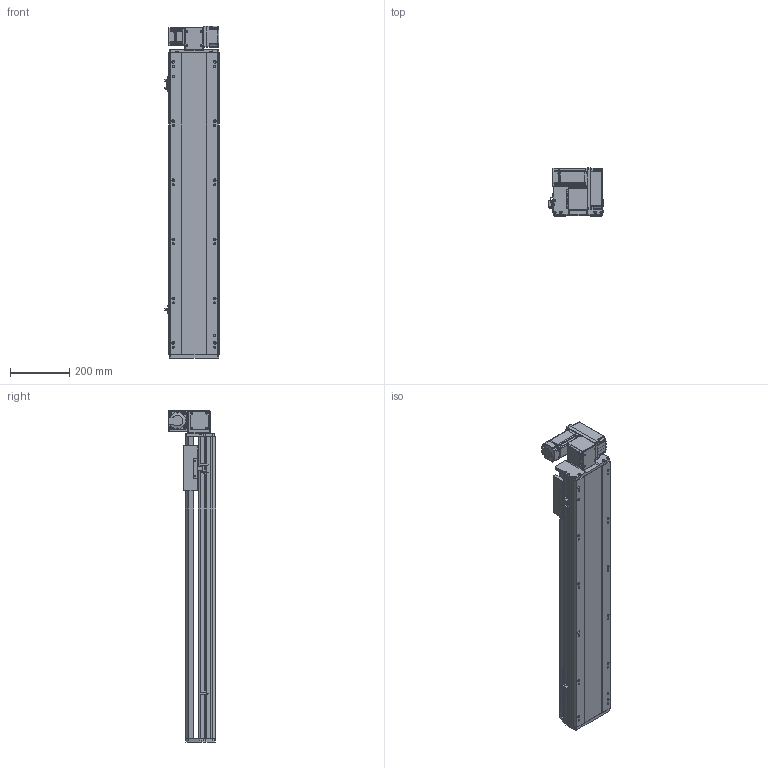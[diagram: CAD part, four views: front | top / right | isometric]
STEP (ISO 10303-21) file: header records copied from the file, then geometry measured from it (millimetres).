
FILE_DESCRIPTION (( 'STEP AP214' ), '1' );
FILE_NAME ('RTB17S-XX-750-RW-M40-C4.STEP', '2025-12-11T08:52:11', ( '' ), ( '' ), 'SwSTEP 2.0', 'SolidWorks 2018', '' );
FILE_SCHEMA (( 'AUTOMOTIVE_DESIGN' ));
Length unit declared in the file: millimetre
Products named in the file (14): RTB17S-RW-々湍釱蚾饜-400W^RTB17S-XX-XX-RW-M40-C4; RTB17S-L-001耜醱啣^RTB17S-XX-XX-RW-M40-C4; RMP17S-L-014-T20--々湍釱^RTB17S-RW-々湍釱蚾饜-400W_RTB17S-XX-XX-RW-M40-C4; RTB14-L-005P--轴承塑胶压盖^RTB17S-RW-皮带座装配-400W_RTB17S-XX-XX-RW-M40-C4; RTB14-L-017P^RTB17S-RW-々湍釱蚾饜-400W_RTB17S-XX-XX-RW-M40-C4; 400W侜督萇儂^RTB17S-XX-XX-RW-M40-C4; RTB17S-L-007奻裔^RTB17S-XX-XX-RW-M40-C4; RTH13-BL-012覜茼え俋离^RTB17S-XX-XX-RW-M40-C4; RTB17-R-011菁釱^RTB17S-XX-XX-RW-M40-C4; RTB14-L-018P^RTB17S-RW-々湍釱蚾饜-400W_RTB17S-XX-XX-RW-M40-C4; RTB17S-L-004佪裝蹟譫蟀諉釱^RTB17S-XX-XX-RW-M40-C4; OMRON EE-SX672 传感器^RTB17S-XX-XX-RW-M40-C4; RTB14-L-008-M20--萇儂啣^RTB17S-RW-々湍釱蚾饜-400W_RTB17S-XX-XX-RW-M40-C4; RTB17S-XX-750-RW-M40-C4
Assembly tree (16 placements, depth 3):
  RTB17S-XX-750-RW-M40-C4
    RTB17-R-011菁釱^RTB17S-XX-XX-RW-M40-C4
    RTB17S-L-007奻裔^RTB17S-XX-XX-RW-M40-C4
    OMRON EE-SX672 传感器^RTB17S-XX-XX-RW-M40-C4  x3
    RTB17S-L-001耜醱啣^RTB17S-XX-XX-RW-M40-C4
    400W侜督萇儂^RTB17S-XX-XX-RW-M40-C4
    RTB17S-L-004佪裝蹟譫蟀諉釱^RTB17S-XX-XX-RW-M40-C4
    RTH13-BL-012覜茼え俋离^RTB17S-XX-XX-RW-M40-C4
    RTB17S-RW-々湍釱蚾饜-400W^RTB17S-XX-XX-RW-M40-C4
      RMP17S-L-014-T20--々湍釱^RTB17S-RW-々湍釱蚾饜-400W_RTB17S-XX-XX-RW-M40-C4
      RTB14-L-005P--轴承塑胶压盖^RTB17S-RW-皮带座装配-400W_RTB17S-XX-XX-RW-M40-C4
      RTB14-L-008-M20--萇儂啣^RTB17S-RW-々湍釱蚾饜-400W_RTB17S-XX-XX-RW-M40-C4
      RTB14-L-017P^RTB17S-RW-々湍釱蚾饜-400W_RTB17S-XX-XX-RW-M40-C4  x2
      RTB14-L-018P^RTB17S-RW-々湍釱蚾饜-400W_RTB17S-XX-XX-RW-M40-C4
Bounding box: 183.5 x 160.5 x 1122.5 mm (x, y, z)
Volume: 10335640.5 mm3; surface area: 1275742 mm2
Topology: 15 solids, 15 shells, 2189 faces, 6033 edges, 3933 vertices
Faces by surface type: plane 1066, cylinder 675, bspline 301, cone 139, torus 8
Entity records: 61865 total; most frequent: CARTESIAN_POINT 17238, ORIENTED_EDGE 8910, DIRECTION 8306, EDGE_CURVE 4455, VERTEX_POINT 2921, AXIS2_PLACEMENT_3D 2851, LINE 2604, VECTOR 2604
